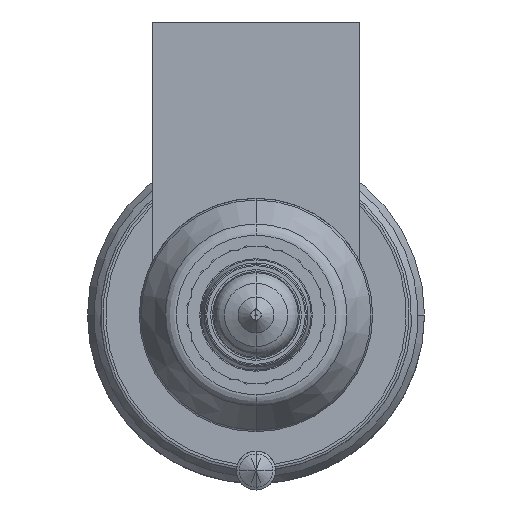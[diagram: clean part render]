
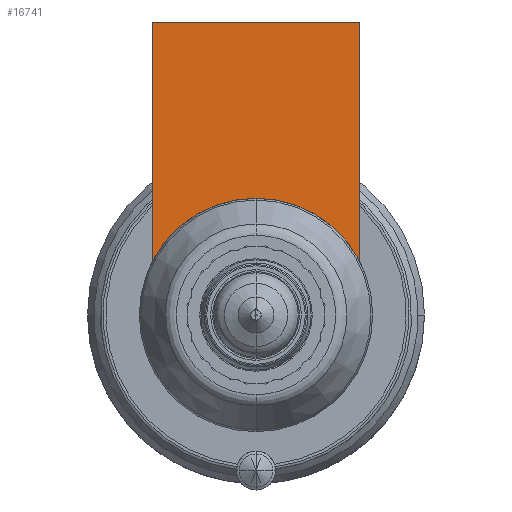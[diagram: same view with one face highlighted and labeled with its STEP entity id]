
A CAD part, front view. The second image highlights one B-rep face of the part: STEP entity #16741.
In plain terms, the highlighted planar face has unit normal (0, -1, 0).
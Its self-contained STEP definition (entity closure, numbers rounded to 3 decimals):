
#15265=DIRECTION('',(0.,0.,-1.));
#15266=VECTOR('',#15265,18.481);
#15267=CARTESIAN_POINT('',(-8.,-54.,22.604));
#15268=LINE('',#15267,#15266);
#15891=CARTESIAN_POINT('',(0.,-54.,0.));
#15892=DIRECTION('',(0.,-1.,0.));
#15893=DIRECTION('',(0.,0.,1.));
#15894=AXIS2_PLACEMENT_3D('',#15891,#15892,#15893);
#15899=DIRECTION('',(1.,0.,0.));
#15900=VECTOR('',#15899,16.);
#15901=CARTESIAN_POINT('',(-8.,-54.,22.604));
#15902=LINE('',#15901,#15900);
#15906=CARTESIAN_POINT('',(0.,-54.,0.));
#15907=DIRECTION('',(0.,-1.,0.));
#15908=DIRECTION('',(0.889,0.,0.458));
#15909=AXIS2_PLACEMENT_3D('',#15906,#15907,#15908);
#15990=DIRECTION('',(0.,0.,-1.));
#15991=VECTOR('',#15990,18.481);
#15992=CARTESIAN_POINT('',(8.,-54.,22.604));
#15993=LINE('',#15992,#15991);
#16099=CARTESIAN_POINT('',(-8.,-54.,22.604));
#16100=VERTEX_POINT('',#16099);
#16105=CARTESIAN_POINT('',(8.,-54.,22.604));
#16106=VERTEX_POINT('',#16105);
#16108=CARTESIAN_POINT('',(-8.,-54.,4.123));
#16110=VERTEX_POINT('',#16108);
#16112=CARTESIAN_POINT('',(8.,-54.,4.123));
#16114=VERTEX_POINT('',#16112);
#16115=CARTESIAN_POINT('',(0.,-54.,9.));
#16116=VERTEX_POINT('',#16115);
#16727=CARTESIAN_POINT('',(-8.,-54.,22.604));
#16728=DIRECTION('',(0.,-1.,0.));
#16729=DIRECTION('',(0.,0.,-1.));
#16730=AXIS2_PLACEMENT_3D('',#16727,#16728,#16729);
#16731=PLANE('',#16730);
#16732=ORIENTED_EDGE('',*,*,#16156,.T.);
#16733=ORIENTED_EDGE('',*,*,#16139,.F.);
#16735=ORIENTED_EDGE('',*,*,#16734,.T.);
#16737=ORIENTED_EDGE('',*,*,#16736,.T.);
#16738=ORIENTED_EDGE('',*,*,#16204,.T.);
#16739=EDGE_LOOP('',(#16732,#16733,#16735,#16737,#16738));
#16740=FACE_OUTER_BOUND('',#16739,.F.);
#16741=ADVANCED_FACE('',(#16740),#16731,.T.);
#15895=CIRCLE('',#15894,9.);
#15910=CIRCLE('',#15909,9.);
#16139=EDGE_CURVE('',#16100,#16110,#15268,.T.);
#16156=EDGE_CURVE('',#16116,#16110,#15895,.T.);
#16204=EDGE_CURVE('',#16114,#16116,#15910,.T.);
#16734=EDGE_CURVE('',#16100,#16106,#15902,.T.);
#16736=EDGE_CURVE('',#16106,#16114,#15993,.T.);
